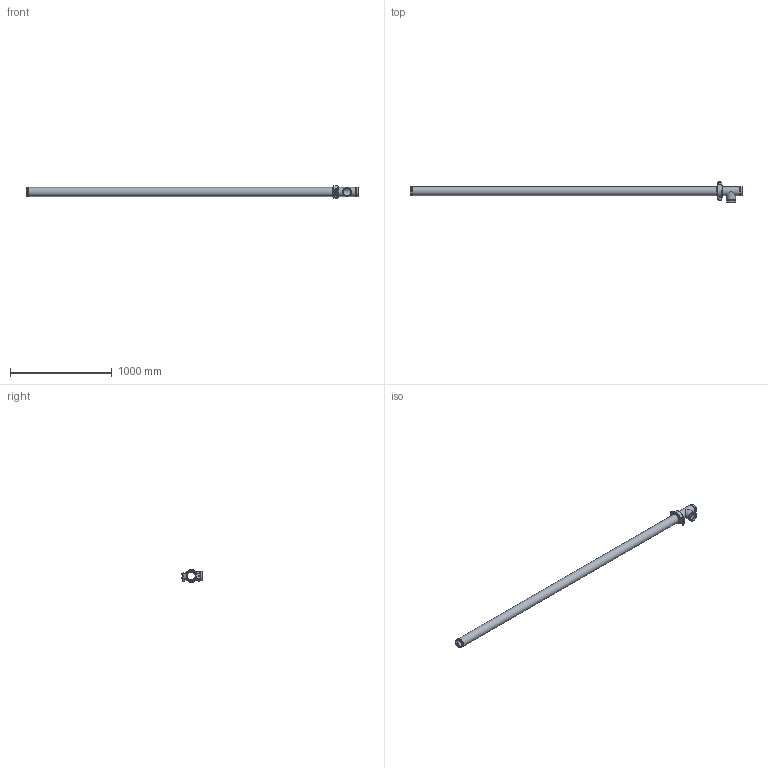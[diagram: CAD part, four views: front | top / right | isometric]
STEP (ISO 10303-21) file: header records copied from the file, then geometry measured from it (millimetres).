
FILE_DESCRIPTION(/* description */ ('VIC LONG RUN FITTING No R25 (OGS)','CAx-IF Rec.Pracs.---Representation and Presentation of Product Manufacturing Information (PMI)---4.0---2014-10-13'),/* implementation_level */ '2;1');
FILE_NAME(/* name */ 'C:\Users\Vjadhav\AppData\Roaming\Autodesk\ApplicationPlugins\Back Up\Victaulic_IPS_Long Run Fittings_No R25 (OGS)\Victaulic_IPS_Long Run Fittings_No R25 (OGS)_3 (80).stp',/* time_stamp */ '2020-10-14T10:38:50+05:00',/* author */ ('Vjadhav'),/* organization */ ('Victaulic'),/* preprocessor_version */ 'ST-DEVELOPER v17.2',/* originating_system */ 'Autodesk Inventor 2019',/* authorisation */ '');
FILE_SCHEMA (('AP242_MANAGED_MODEL_BASED_3D_ENGINEERING_MIM_LF { 1 0 10303 442 1 1 4 }'));
Length unit declared in the file: inch
Products named in the file (4): R25-03.0; 020-03.0; 177N-03.0; Pipe_R13-03.0
Assembly tree (3 placements, depth 2):
  R25-03.0
    020-03.0
    177N-03.0
    Pipe_R13-03.0
Bounding box: 3270.25 x 200.54 x 127 mm (x, y, z)
Volume: 5178925.2 mm3; surface area: 1820555.2 mm2
Topology: 3 solids, 3 shells, 122 faces, 331 edges, 226 vertices
Faces by surface type: plane 71, cylinder 41, cone 4, torus 4, sphere 2
Full cylindrical faces by diameter (mm): 12.7 x2, 22.225 x2, 76.2 x1, 77.927 x3, 84.938 x5, 88.9 x10
Entity records: 4315 total; most frequent: CARTESIAN_POINT 762, DIRECTION 723, ORIENTED_EDGE 670, EDGE_CURVE 335, AXIS2_PLACEMENT_3D 275, VERTEX_POINT 226, LINE 173, VECTOR 173
